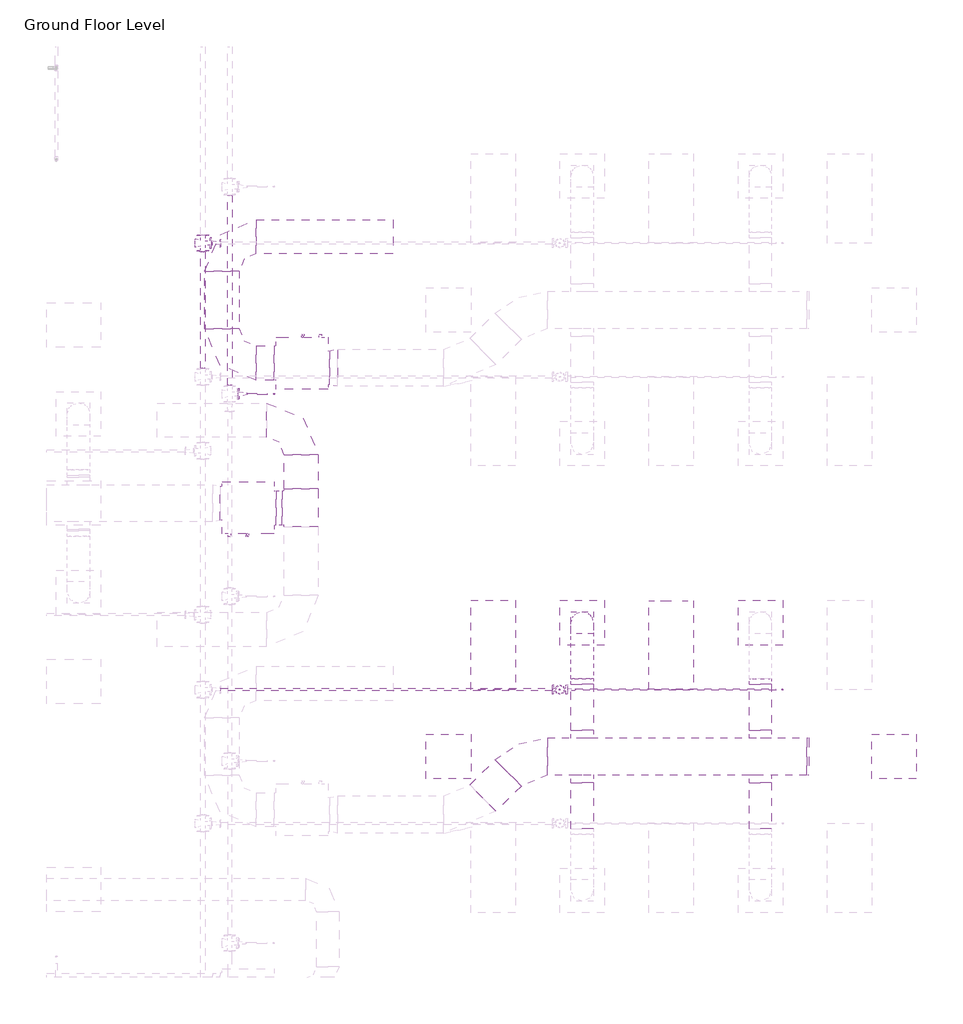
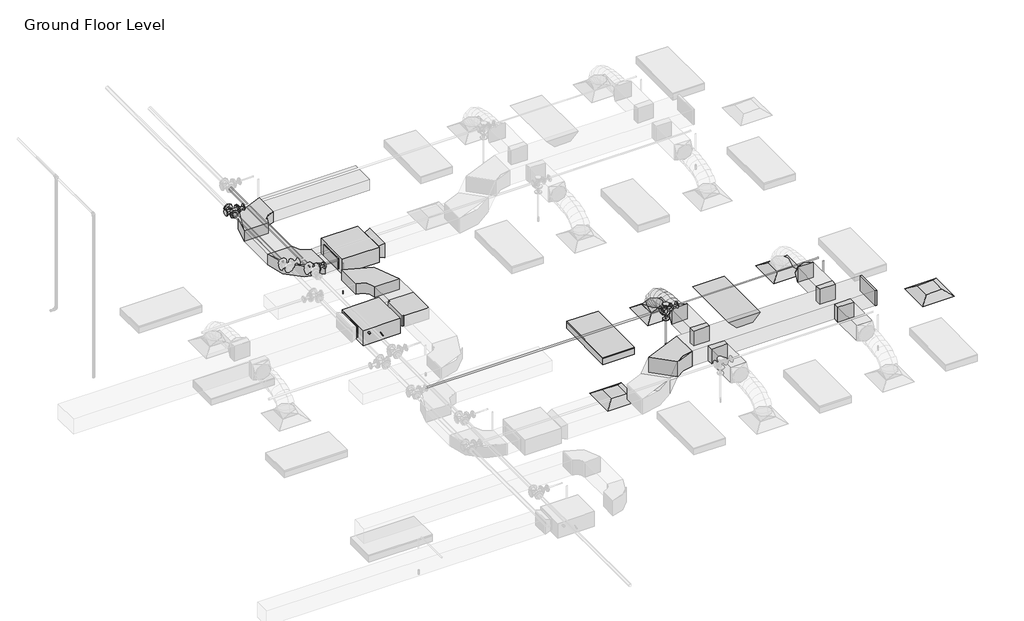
# One storey, part 59 of 68: 14 duct fittings, 12 duct segments, 8 pipe segments, 6 pipe fittings, 4 air terminals, 3 fire suppression terminals, 2 light fixtures, 2 proxies.
"""IFC4 building model written with IfcOpenShell, lengths in millimetres."""

from ifc_helpers import new_model, si_unit, point, frame, frame_2d, origin, place, context, project, spatial, polyline, circle_curve, ellipse_curve, trimmed, segment, composite_curve, outline, extrude, transform, mapped, element, save
from ifc_brep_helpers import plane_surface, cylinder_surface, advanced_brep
from components import m_return_diffuser_600_x_600_face_300_x_300_connection_ff221211, fcu_daikin_iu_bad131e0, m_rectangular_elbow_radius_1_w_54c96895, m_rectangular_elbow_radius_1_5_w_acc56c25, m_rectangular_endcap_standard_72d4d00d, m_rectangular_takeoff_standard_cb0ccb98, m_rectangular_takeoff_standard_2be5eba1, m_rectangular_tee_standard_fa4de0e8, m_rectangular_transition_angle_45_degree_2b595dfe, m_rectangular_to_round_transition_angle_45_degree_641efff0, m_sprinkler_dry_pendent_hosted_15_mm_dry_pendent_9bda8e11, m_sprinkler_pendent_15_mm_pendent_06fcbd8e, m_emergency_recessed_lighting_fixture_600x1200_277_5b10b25d, m_troffer_light_parabolic_rectangular1_0600x1200mm_4_lamp_86473d4a, m_reducer_flanged_cs_class_150_standard_ccf252ad, m_reducer_flanged_cs_class_150_standard_9dfe9ec5, m_reducer_flanged_cs_class_150_standard_a7631c35, m_tee_round_base_flanged_cs_class_150_standard_dd767e04, m_tee_round_base_flanged_cs_class_150_standard_7e5987a1

model = new_model("IFC4")

# Units and contexts
model_context = context("Model", 3, world=origin())
ifc_project = project(units=[si_unit("LENGTHUNIT", "METRE", prefix="MILLI")], contexts=[model_context])

# Site, building, storey
site = spatial("IfcSite", under=ifc_project)
building = spatial("IfcBuilding", under=site)
storey = spatial("IfcBuildingStorey", under=building, Name="Ground Floor Level", Elevation=900.0)

# Air terminals
placement = place(None, origin())
m_return_diffuser_600_x_600_face_300_x_300_connection_shape = m_return_diffuser_600_x_600_face_300_x_300_connection_ff221211(model_context)
element("IfcAirTerminal", 1, ObjectType="M_Return Diffuser : 600 x 600 Face 300 x 300 Connection", at=placement, inside=storey, context=model_context, shape_type="MappedRepresentation", body=[
    mapped(m_return_diffuser_600_x_600_face_300_x_300_connection_shape, transform((8942.7672395, 725.2153534, 3650.0), x_axis=(1.0, 0.0, 0.0), y_axis=(0.0, 1.0, 0.0), z_axis=(0.0, 0.0, 1.0))),
])
element("IfcAirTerminal", 2, ObjectType="M_Return Diffuser : 600 x 600 Face 300 x 300 Connection", at=placement, inside=storey, context=model_context, shape_type="MappedRepresentation", body=[
    mapped(m_return_diffuser_600_x_600_face_300_x_300_connection_shape, transform((14942.7672395, 725.2153534, 3650.0), x_axis=(1.0, 0.0, 0.0), y_axis=(0.0, 1.0, 0.0), z_axis=(0.0, 0.0, 1.0))),
])
element("IfcAirTerminal", 3, ObjectType="M_Supply Diffuser : 600 x 600 Face 300 x 300 Connection", at=placement, inside=storey, context=model_context, shape_type="MappedRepresentation", body=[
    mapped(m_return_diffuser_600_x_600_face_300_x_300_connection_shape, transform((10742.7672395, 2525.2153534, 3650.0), x_axis=(1.0, 0.0, 0.0), y_axis=(0.0, 1.0, 0.0), z_axis=(0.0, 0.0, 1.0))),
])
element("IfcAirTerminal", 4, ObjectType="M_Supply Diffuser : 600 x 600 Face 300 x 300 Connection", at=placement, inside=storey, context=model_context, shape_type="MappedRepresentation", body=[
    mapped(m_return_diffuser_600_x_600_face_300_x_300_connection_shape, transform((13142.7672395, 2525.2153534, 3650.0), x_axis=(1.0, 0.0, 0.0), y_axis=(0.0, 1.0, 0.0), z_axis=(0.0, 0.0, 1.0))),
])

# Proxies
fcu_daikin_iu_shape = fcu_daikin_iu_bad131e0(model_context)
element("IfcBuildingElementProxy", 5, Name="FCU-DAIKIN IU : 4.5kW, 230V/50Hz/1Ph", ObjectType="FCU-DAIKIN IU : 4.5kW, 230V/50Hz/1Ph", at=placement, inside=storey, context=model_context, shape_type="MappedRepresentation", body=[
    mapped(fcu_daikin_iu_shape, transform((6968.8139492, 6019.6779527, 3934.0932729), x_axis=(0.0, 1.0, 0.0), y_axis=(-1.0, 0.0, 0.0), z_axis=(0.0, 0.0, 1.0))),
])
element("IfcBuildingElementProxy", 6, Name="FCU-DAIKIN IU : 4.5kW, 230V/50Hz/1Ph", ObjectType="FCU-DAIKIN IU : 4.5kW, 230V/50Hz/1Ph", at=placement, inside=storey, context=model_context, shape_type="MappedRepresentation", body=[
    mapped(fcu_daikin_iu_shape, transform((6243.4139492, 4071.5199167, 3934.0875), x_axis=(0.0, -1.0, 0.0), y_axis=(1.0, 0.0, 0.0), z_axis=(0.0, 0.0, 1.0))),
])

# Duct fittings
m_rectangular_elbow_radius_1_w_shape = m_rectangular_elbow_radius_1_w_54c96895(model_context)
element("IfcDuctFitting", 7, ObjectType="M_Rectangular Elbow - Radius : 1 W", at=placement, inside=storey, context=model_context, shape_type="MappedRepresentation", body=[
    mapped(m_rectangular_elbow_radius_1_w_shape, transform((5893.4139492, 6019.6779527, 4075.2932729), x_axis=(0.0, -1.0, 0.0), y_axis=(1.0, 0.0, 0.0), z_axis=(0.0, 0.0, 1.0))),
])
element("IfcDuctFitting", 8, ObjectType="M_Rectangular Elbow - Radius : 1 W", at=placement, inside=storey, context=model_context, shape_type="MappedRepresentation", body=[
    mapped(m_rectangular_elbow_radius_1_w_shape, transform((5893.4139492, 7719.6783949, 4075.2932729), x_axis=(-1.0, 0.0, 0.0), y_axis=(0.0, -1.0, 0.0), z_axis=(0.0, 0.0, 1.0))),
])
element("IfcDuctFitting", 9, ObjectType="M_Rectangular Elbow - Radius : 1 W", at=placement, inside=storey, context=model_context, shape_type="MappedRepresentation", body=[
    mapped(m_rectangular_elbow_radius_1_w_shape, transform((6958.8139492, 5251.5199167, 4075.2875), x_axis=(0.0, 1.0, 0.0), y_axis=(-1.0, 0.0, 0.0), z_axis=(0.0, 0.0, 1.0))),
])
m_rectangular_elbow_radius_1_5_w_shape = m_rectangular_elbow_radius_1_5_w_acc56c25(model_context)
element("IfcDuctFitting", 10, ObjectType="M_Rectangular Elbow - Radius : 1.5 W", at=placement, inside=storey, context=model_context, shape_type="MappedRepresentation", body=[
    mapped(m_rectangular_elbow_radius_1_5_w_shape, transform((9966.7301365, 725.2153534, 4100.0), x_axis=(-1.0, 0.0, 0.0), y_axis=(0.0, -0.9999999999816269, 6.061864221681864e-06), z_axis=(0.0, 6.061864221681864e-06, 0.9999999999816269))),
])
m_rectangular_endcap_standard_shape = m_rectangular_endcap_standard_72d4d00d(model_context)
element("IfcDuctFitting", 11, ObjectType="M_Rectangular Endcap : Standard", at=placement, inside=storey, context=model_context, shape_type="MappedRepresentation", body=[
    mapped(m_rectangular_endcap_standard_shape, transform((13766.7301365, 725.2153534, 4100.0), x_axis=(1.0, 0.0, 0.0), y_axis=(0.0, 1.0, 0.0), z_axis=(0.0, 0.0, 1.0))),
])
m_rectangular_takeoff_standard_shape = m_rectangular_takeoff_standard_cb0ccb98(model_context)
element("IfcDuctFitting", 12, ObjectType="M_Rectangular Takeoff : Standard", at=placement, inside=storey, context=model_context, shape_type="MappedRepresentation", body=[
    mapped(m_rectangular_takeoff_standard_shape, transform((10742.7672395, 975.2153534, 4100.0), x_axis=(0.0, 1.0, 0.0), y_axis=(1.0, 0.0, 0.0), z_axis=(0.0, 0.0, -1.0))),
])
element("IfcDuctFitting", 13, ObjectType="M_Rectangular Takeoff : Standard", at=placement, inside=storey, context=model_context, shape_type="MappedRepresentation", body=[
    mapped(m_rectangular_takeoff_standard_shape, transform((13142.7672395, 975.2153534, 4100.0), x_axis=(0.0, 1.0, 0.0), y_axis=(1.0, 0.0, 0.0), z_axis=(0.0, 0.0, -1.0))),
])
m_rectangular_takeoff_standard_2_shape = m_rectangular_takeoff_standard_2be5eba1(model_context)
element("IfcDuctFitting", 14, ObjectType="M_Rectangular Takeoff : Standard", at=placement, inside=storey, context=model_context, shape_type="MappedRepresentation", body=[
    mapped(m_rectangular_takeoff_standard_2_shape, transform((10742.7672395, 475.2153534, 4100.0), x_axis=(0.0, -1.0, 0.0), y_axis=(-1.0, 0.0, 0.0), z_axis=(0.0, 0.0, -1.0))),
])
element("IfcDuctFitting", 15, ObjectType="M_Rectangular Takeoff : Standard", at=placement, inside=storey, context=model_context, shape_type="MappedRepresentation", body=[
    mapped(m_rectangular_takeoff_standard_2_shape, transform((13142.7672395, 475.2153534, 4100.0), x_axis=(0.0, -1.0, 0.0), y_axis=(-1.0, 0.0, 0.0), z_axis=(0.0, 0.0, -1.0))),
])
m_rectangular_tee_standard_shape = m_rectangular_tee_standard_fa4de0e8(model_context)
element("IfcDuctFitting", 16, ObjectType="M_Rectangular Tee : Standard", at=placement, inside=storey, context=model_context, shape_type="MappedRepresentation", body=[
    mapped(m_rectangular_tee_standard_shape, transform((6958.8139492, 4071.5199167, 4075.2875), x_axis=(0.0, -1.0, 0.0), y_axis=(1.0, 0.0, 0.0), z_axis=(0.0, 0.0, 1.0))),
])
m_rectangular_transition_angle_45_degree_shape = m_rectangular_transition_angle_45_degree_2b595dfe(model_context)
element("IfcDuctFitting", 17, ObjectType="M_Rectangular Transition - Angle : 45 Degree", at=placement, inside=storey, context=model_context, shape_type="MappedRepresentation", body=[
    mapped(m_rectangular_transition_angle_45_degree_shape, transform((7344.2139492, 5956.1779527, 4100.0057729), x_axis=(1.0, 0.0, 0.0), y_axis=(0.0, 1.0, 0.0), z_axis=(0.0, 0.0, 1.0))),
])
m_rectangular_to_round_transition_angle_45_degree_shape = m_rectangular_to_round_transition_angle_45_degree_641efff0(model_context)
element("IfcDuctFitting", 18, ObjectType="M_Rectangular to Round Transition - Angle : 45 Degree", at=placement, inside=storey, context=model_context, shape_type="MappedRepresentation", body=[
    mapped(m_rectangular_to_round_transition_angle_45_degree_shape, transform((10742.7672395, 2525.2153534, 3751.6), x_axis=(0.0, 0.0, 1.0), y_axis=(-1.0, 0.0, 0.0), z_axis=(0.0, -1.0, 0.0))),
])
element("IfcDuctFitting", 19, ObjectType="M_Rectangular to Round Transition - Angle : 45 Degree", at=placement, inside=storey, context=model_context, shape_type="MappedRepresentation", body=[
    mapped(m_rectangular_to_round_transition_angle_45_degree_shape, transform((10742.7672395, 1697.8794221, 4100.0), x_axis=(0.0, 1.0, 0.0), y_axis=(-1.0, 0.0, 0.0), z_axis=(0.0, 0.0, 1.0))),
])
element("IfcDuctFitting", 20, ObjectType="M_Rectangular to Round Transition - Angle : 45 Degree", at=placement, inside=storey, context=model_context, shape_type="MappedRepresentation", body=[
    mapped(m_rectangular_to_round_transition_angle_45_degree_shape, transform((13142.7672395, 1697.8794221, 4100.0), x_axis=(0.0, 1.0, 0.0), y_axis=(-1.0, 0.0, 0.0), z_axis=(0.0, 0.0, 1.0))),
])

# Duct segments
element("IfcDuctSegment", 21, ObjectType="Flex - Round", at=placement, inside=storey, context=model_context, shape_type="AdvancedBrep", body=[
    advanced_brep(
    [(10892.7672395, 2525.2153534, 3826.6), (10742.7672395, 2375.2153534, 3826.6), (10592.7672395, 2525.2153534, 3826.6), (10742.7672395, 2675.2153534, 3826.6), (10892.7672395, 2525.2153534, 3857.9377114), (10742.7672395, 2375.2153534, 3832.2944892), (10592.7672395, 2525.2153534, 3857.9377114), (10742.7672395, 2675.2153534, 3883.5809337), (10892.7672395, 2508.1994208, 3906.2505728), (10742.7672395, 2374.4614419, 3834.435049), (10592.7672395, 2508.1994208, 3906.2505728), (10742.7672395, 2641.9373998, 3978.0660967), (10892.7672395, 2461.0155405, 3968.7113131), (10742.7672395, 2356.8096412, 3857.8020236), (10592.7672395, 2461.0155405, 3968.7113131), (10742.7672395, 2565.2214397, 4079.6206026), (10892.7672395, 2389.4595883, 4016.0700639), (10742.7672395, 2320.5255327, 3881.8163788), (10592.7672395, 2389.4595883, 4016.0700639), (10742.7672395, 2458.3936439, 4150.3237489), (10892.7672395, 2299.3274403, 4050.4146682), (10742.7672395, 2255.7666771, 3906.4925606), (10592.7672395, 2299.3274403, 4050.4146682), (10742.7672395, 2342.8882035, 4194.3367758), (10892.7672395, 2196.4149725, 4073.8329691), (10742.7672395, 2169.8540485, 3926.0424542), (10592.7672395, 2196.4149725, 4073.8329691), (10742.7672395, 2222.9758965, 4221.6234841), (10892.7672395, 2086.5180607, 4088.4128097), (10742.7672395, 2071.3671584, 3939.1085462), (10592.7672395, 2086.5180607, 4088.4128097), (10742.7672395, 2101.6689631, 4237.7170733), (10892.7672395, 1975.4325811, 4096.242033), (10742.7672395, 1967.9272529, 3946.398915), (10592.7672395, 1975.4325811, 4096.242033), (10742.7672395, 1982.9379093, 4246.085151), (10892.7672395, 1868.9544096, 4099.4084821), (10742.7672395, 1866.2629165, 3949.4222102), (10592.7672395, 1868.9544096, 4099.4084821), (10742.7672395, 1871.6459027, 4249.394754), (10892.7672395, 1772.8794221, 4100.0), (10742.7672395, 1773.8029299, 4249.9971571), (10592.7672395, 1772.8794221, 4100.0), (10742.7672395, 1771.9559143, 3950.0028429)],
    [
        (0, 1, circle_curve(frame((10742.7672395, 2525.2153534, 3826.6), z_axis=(0.0, 0.0, -1.0), x_axis=(1.0, 0.0, 0.0)), 150.0)),
        (1, 2, circle_curve(frame((10742.7672395, 2525.2153534, 3826.6), z_axis=(0.0, 0.0, -1.0), x_axis=(1.0, 0.0, 0.0)), 150.0)),
        (2, 3, circle_curve(frame((10742.7672395, 2525.2153534, 3826.6), z_axis=(0.0, 0.0, -1.0), x_axis=(1.0, 0.0, 0.0)), 150.0)),
        (3, 0, circle_curve(frame((10742.7672395, 2525.2153534, 3826.6), z_axis=(0.0, 0.0, -1.0), x_axis=(1.0, 0.0, 0.0)), 150.0)),
        (0, 4),
        (4, 5, ellipse_curve(frame((10742.7672395, 2525.2153534, 3857.9377114), z_axis=(0.0, 0.16851014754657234, -0.9856999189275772), x_axis=(0.0, -0.9856999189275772, -0.1685101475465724)), 152.176131, 150.0)),
        (5, 1),
        (5, 6, ellipse_curve(frame((10742.7672395, 2525.2153534, 3857.9377114), z_axis=(0.0, 0.16851014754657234, -0.9856999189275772), x_axis=(0.0, -0.9856999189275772, -0.1685101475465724)), 152.176131, 150.0)),
        (6, 2),
        (6, 7, ellipse_curve(frame((10742.7672395, 2525.2153534, 3857.9377114), z_axis=(0.0, 0.16851014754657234, -0.9856999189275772), x_axis=(0.0, -0.9856999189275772, -0.1685101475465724)), 152.176131, 150.0)),
        (7, 3),
        (7, 4, ellipse_curve(frame((10742.7672395, 2525.2153534, 3857.9377114), z_axis=(0.0, 0.16851014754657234, -0.9856999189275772), x_axis=(0.0, -0.9856999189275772, -0.1685101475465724)), 152.176131, 150.0)),
        (4, 8),
        (8, 9, ellipse_curve(frame((10742.7672395, 2508.1994208, 3906.2505728), z_axis=(0.0, 0.47309225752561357, -0.8810128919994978), x_axis=(0.0, -0.8810128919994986, -0.47309225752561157)), 151.8002519, 150.0)),
        (9, 5),
        (9, 10, ellipse_curve(frame((10742.7672395, 2508.1994208, 3906.2505728), z_axis=(0.0, 0.47309225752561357, -0.8810128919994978), x_axis=(0.0, -0.8810128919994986, -0.47309225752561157)), 151.8002519, 150.0)),
        (10, 6),
        (10, 11, ellipse_curve(frame((10742.7672395, 2508.1994208, 3906.2505728), z_axis=(0.0, 0.47309225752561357, -0.8810128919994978), x_axis=(0.0, -0.8810128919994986, -0.47309225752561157)), 151.8002519, 150.0)),
        (11, 7),
        (11, 8, ellipse_curve(frame((10742.7672395, 2508.1994208, 3906.2505728), z_axis=(0.0, 0.47309225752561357, -0.8810128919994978), x_axis=(0.0, -0.8810128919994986, -0.47309225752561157)), 151.8002519, 150.0)),
        (8, 12),
        (12, 13, ellipse_curve(frame((10742.7672395, 2461.0155405, 3968.7113131), z_axis=(0.0, 0.7287877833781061, -0.6847396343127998), x_axis=(0.0, -0.6847396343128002, -0.7287877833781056)), 152.1832446, 150.0)),
        (13, 9),
        (13, 14, ellipse_curve(frame((10742.7672395, 2461.0155405, 3968.7113131), z_axis=(0.0, 0.7287877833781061, -0.6847396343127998), x_axis=(0.0, -0.6847396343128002, -0.7287877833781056)), 152.1832446, 150.0)),
        (14, 10),
        (14, 15, ellipse_curve(frame((10742.7672395, 2461.0155405, 3968.7113131), z_axis=(0.0, 0.7287877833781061, -0.6847396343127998), x_axis=(0.0, -0.6847396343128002, -0.7287877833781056)), 152.1832446, 150.0)),
        (15, 11),
        (15, 12, ellipse_curve(frame((10742.7672395, 2461.0155405, 3968.7113131), z_axis=(0.0, 0.7287877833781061, -0.6847396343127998), x_axis=(0.0, -0.6847396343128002, -0.7287877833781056)), 152.1832446, 150.0)),
        (12, 16),
        (16, 17, ellipse_curve(frame((10742.7672395, 2389.4595883, 4016.0700639), z_axis=(0.0, 0.8895859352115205, -0.45676784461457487), x_axis=(0.0, -0.4567678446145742, -0.8895859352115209)), 150.91705, 150.0)),
        (17, 13),
        (17, 18, ellipse_curve(frame((10742.7672395, 2389.4595883, 4016.0700639), z_axis=(0.0, 0.8895859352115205, -0.45676784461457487), x_axis=(0.0, -0.4567678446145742, -0.8895859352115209)), 150.91705, 150.0)),
        (18, 14),
        (18, 19, ellipse_curve(frame((10742.7672395, 2389.4595883, 4016.0700639), z_axis=(0.0, 0.8895859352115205, -0.45676784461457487), x_axis=(0.0, -0.4567678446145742, -0.8895859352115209)), 150.91705, 150.0)),
        (19, 15),
        (19, 16, ellipse_curve(frame((10742.7672395, 2389.4595883, 4016.0700639), z_axis=(0.0, 0.8895859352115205, -0.45676784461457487), x_axis=(0.0, -0.4567678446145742, -0.8895859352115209)), 150.91705, 150.0)),
        (16, 20),
        (20, 21, ellipse_curve(frame((10742.7672395, 2299.3274403, 4050.4146682), z_axis=(0.0, 0.9571203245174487, -0.2896906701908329), x_axis=(0.0, -0.28969067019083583, -0.9571203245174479)), 150.369921, 150.0)),
        (21, 17),
        (21, 22, ellipse_curve(frame((10742.7672395, 2299.3274403, 4050.4146682), z_axis=(0.0, 0.9571203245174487, -0.2896906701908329), x_axis=(0.0, -0.28969067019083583, -0.9571203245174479)), 150.369921, 150.0)),
        (22, 18),
        (22, 23, ellipse_curve(frame((10742.7672395, 2299.3274403, 4050.4146682), z_axis=(0.0, 0.9571203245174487, -0.2896906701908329), x_axis=(0.0, -0.28969067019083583, -0.9571203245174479)), 150.369921, 150.0)),
        (23, 19),
        (23, 20, ellipse_curve(frame((10742.7672395, 2299.3274403, 4050.4146682), z_axis=(0.0, 0.9571203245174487, -0.2896906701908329), x_axis=(0.0, -0.28969067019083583, -0.9571203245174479)), 150.369921, 150.0)),
        (20, 24),
        (24, 25, ellipse_curve(frame((10742.7672395, 2196.4149725, 4073.8329691), z_axis=(0.0, 0.9842313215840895, -0.1768861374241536), x_axis=(0.0, -0.1768861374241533, -0.9842313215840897)), 150.1583131, 150.0)),
        (25, 21),
        (25, 26, ellipse_curve(frame((10742.7672395, 2196.4149725, 4073.8329691), z_axis=(0.0, 0.9842313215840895, -0.1768861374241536), x_axis=(0.0, -0.1768861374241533, -0.9842313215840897)), 150.1583131, 150.0)),
        (26, 22),
        (26, 27, ellipse_curve(frame((10742.7672395, 2196.4149725, 4073.8329691), z_axis=(0.0, 0.9842313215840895, -0.1768861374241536), x_axis=(0.0, -0.1768861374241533, -0.9842313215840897)), 150.1583131, 150.0)),
        (27, 23),
        (27, 24, ellipse_curve(frame((10742.7672395, 2196.4149725, 4073.8329691), z_axis=(0.0, 0.9842313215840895, -0.1768861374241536), x_axis=(0.0, -0.1768861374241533, -0.9842313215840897)), 150.1583131, 150.0)),
        (24, 28),
        (28, 29, ellipse_curve(frame((10742.7672395, 2086.5180607, 4088.4128097), z_axis=(0.0, 0.9948906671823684, -0.10095821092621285), x_axis=(0.0, -0.10095821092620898, -0.9948906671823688)), 150.0710264, 150.0)),
        (29, 25),
        (29, 30, ellipse_curve(frame((10742.7672395, 2086.5180607, 4088.4128097), z_axis=(0.0, 0.9948906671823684, -0.10095821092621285), x_axis=(0.0, -0.10095821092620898, -0.9948906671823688)), 150.0710264, 150.0)),
        (30, 26),
        (30, 31, ellipse_curve(frame((10742.7672395, 2086.5180607, 4088.4128097), z_axis=(0.0, 0.9948906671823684, -0.10095821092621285), x_axis=(0.0, -0.10095821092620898, -0.9948906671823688)), 150.0710264, 150.0)),
        (31, 27),
        (31, 28, ellipse_curve(frame((10742.7672395, 2086.5180607, 4088.4128097), z_axis=(0.0, 0.9948906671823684, -0.10095821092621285), x_axis=(0.0, -0.10095821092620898, -0.9948906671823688)), 150.0710264, 150.0)),
        (28, 32),
        (32, 33, ellipse_curve(frame((10742.7672395, 1975.4325811, 4096.242033), z_axis=(0.0, 0.9987479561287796, -0.050025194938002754), x_axis=(0.0, -0.05002519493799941, -0.99874795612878)), 150.0309634, 150.0)),
        (33, 29),
        (33, 34, ellipse_curve(frame((10742.7672395, 1975.4325811, 4096.242033), z_axis=(0.0, 0.9987479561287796, -0.050025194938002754), x_axis=(0.0, -0.05002519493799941, -0.99874795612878)), 150.0309634, 150.0)),
        (34, 30),
        (34, 35, ellipse_curve(frame((10742.7672395, 1975.4325811, 4096.242033), z_axis=(0.0, 0.9987479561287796, -0.050025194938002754), x_axis=(0.0, -0.05002519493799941, -0.99874795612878)), 150.0309634, 150.0)),
        (35, 31),
        (35, 32, ellipse_curve(frame((10742.7672395, 1975.4325811, 4096.242033), z_axis=(0.0, 0.9987479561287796, -0.050025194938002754), x_axis=(0.0, -0.05002519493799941, -0.99874795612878)), 150.0309634, 150.0)),
        (32, 36),
        (36, 37, ellipse_curve(frame((10742.7672395, 1868.9544096, 4099.4084821), z_axis=(0.0, 0.9998390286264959, -0.01794204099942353), x_axis=(0.0, -0.017942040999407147, -0.9998390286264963)), 150.0104193, 150.0)),
        (37, 33),
        (37, 38, ellipse_curve(frame((10742.7672395, 1868.9544096, 4099.4084821), z_axis=(0.0, 0.9998390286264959, -0.01794204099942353), x_axis=(0.0, -0.017942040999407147, -0.9998390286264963)), 150.0104193, 150.0)),
        (38, 34),
        (38, 39, ellipse_curve(frame((10742.7672395, 1868.9544096, 4099.4084821), z_axis=(0.0, 0.9998390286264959, -0.01794204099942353), x_axis=(0.0, -0.017942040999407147, -0.9998390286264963)), 150.0104193, 150.0)),
        (39, 35),
        (39, 36, ellipse_curve(frame((10742.7672395, 1868.9544096, 4099.4084821), z_axis=(0.0, 0.9998390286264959, -0.01794204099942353), x_axis=(0.0, -0.017942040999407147, -0.9998390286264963)), 150.0104193, 150.0)),
        (40, 41, circle_curve(frame((10742.7672395, 1772.8794221, 4100.0), z_axis=(0.0, -0.9999810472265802, 0.006156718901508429), x_axis=(1.0, 0.0, 0.0)), 150.0)),
        (41, 42, circle_curve(frame((10742.7672395, 1772.8794221, 4100.0), z_axis=(0.0, -0.9999810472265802, 0.006156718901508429), x_axis=(1.0, 0.0, 0.0)), 150.0)),
        (42, 43, circle_curve(frame((10742.7672395, 1772.8794221, 4100.0), z_axis=(0.0, -0.9999810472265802, 0.006156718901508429), x_axis=(1.0, 0.0, 0.0)), 150.0)),
        (43, 40, circle_curve(frame((10742.7672395, 1772.8794221, 4100.0), z_axis=(0.0, -0.9999810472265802, 0.006156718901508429), x_axis=(1.0, 0.0, 0.0)), 150.0)),
        (36, 40),
        (43, 37),
        (42, 38),
        (41, 39),
    ],
    [
        plane_surface(frame((10742.7672395, 2375.2153534, 3826.6), z_axis=(0.0, 0.0, -1.0), x_axis=(1.0, 0.0, 0.0))),
        cylinder_surface(frame((10742.7672395, 2525.2153534, 3826.6), z_axis=(0.0, 0.0, -1.0), x_axis=(1.0, 0.0, 0.0)), 150.0),
        cylinder_surface(frame((10742.7672395, 2525.2153534, 3857.9377114), z_axis=(0.0, 0.3322008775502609, -0.9432086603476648), x_axis=(1.0, 0.0, 0.0)), 150.0),
        cylinder_surface(frame((10742.7672395, 2508.1994208, 3906.2505728), z_axis=(0.0, 0.6027625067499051, -0.7979206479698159), x_axis=(1.0, 0.0, 0.0)), 150.0),
        cylinder_surface(frame((10742.7672395, 2461.0155405, 3968.7113131), z_axis=(0.0, 0.8339024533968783, -0.5519118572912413), x_axis=(1.0, 0.0, 0.0)), 150.0),
        cylinder_surface(frame((10742.7672395, 2389.4595883, 4016.0700639), z_axis=(0.0, 0.9344582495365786, -0.35607271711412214), x_axis=(1.0, 0.0, 0.0)), 150.0),
        cylinder_surface(frame((10742.7672395, 2299.3274403, 4050.4146682), z_axis=(0.0, 0.9750732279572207, -0.22188330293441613), x_axis=(1.0, 0.0, 0.0)), 150.0),
        cylinder_surface(frame((10742.7672395, 2196.4149725, 4073.8329691), z_axis=(0.0, 0.9913140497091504, -0.13151598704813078), x_axis=(1.0, 0.0, 0.0)), 150.0),
        cylinder_surface(frame((10742.7672395, 2086.5180607, 4088.4128097), z_axis=(0.0, 0.9975255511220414, -0.07030487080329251), x_axis=(1.0, 0.0, 0.0)), 150.0),
        cylinder_surface(frame((10742.7672395, 1975.4325811, 4096.242033), z_axis=(0.0, 0.9995581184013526, -0.029724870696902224), x_axis=(1.0, 0.0, 0.0)), 150.0),
        plane_surface(frame((10742.7672395, 1771.9559143, 3950.0028429), z_axis=(0.0, -0.9999810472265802, 0.006156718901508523), x_axis=(1.0, 0.0, 0.0))),
        cylinder_surface(frame((10742.7672395, 1868.9544096, 4099.4084821), z_axis=(0.0, 0.9999810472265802, -0.006156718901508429), x_axis=(1.0, 0.0, 0.0)), 150.0),
    ],
    [
        (0, [[1, 2, 3, 4]]),
        (1, [[-1, 5, 6, 7]]),
        (1, [[-2, -7, 8, 9]]),
        (1, [[-3, -9, 10, 11]]),
        (1, [[-4, -11, 12, -5]]),
        (2, [[-6, 13, 14, 15]]),
        (2, [[-8, -15, 16, 17]]),
        (2, [[-10, -17, 18, 19]]),
        (2, [[-12, -19, 20, -13]]),
        (3, [[-14, 21, 22, 23]]),
        (3, [[-16, -23, 24, 25]]),
        (3, [[-18, -25, 26, 27]]),
        (3, [[-20, -27, 28, -21]]),
        (4, [[-22, 29, 30, 31]]),
        (4, [[-24, -31, 32, 33]]),
        (4, [[-26, -33, 34, 35]]),
        (4, [[-28, -35, 36, -29]]),
        (5, [[-30, 37, 38, 39]]),
        (5, [[-32, -39, 40, 41]]),
        (5, [[-34, -41, 42, 43]]),
        (5, [[-36, -43, 44, -37]]),
        (6, [[-38, 45, 46, 47]]),
        (6, [[-40, -47, 48, 49]]),
        (6, [[-42, -49, 50, 51]]),
        (6, [[-44, -51, 52, -45]]),
        (7, [[-46, 53, 54, 55]]),
        (7, [[-48, -55, 56, 57]]),
        (7, [[-50, -57, 58, 59]]),
        (7, [[-52, -59, 60, -53]]),
        (8, [[-54, 61, 62, 63]]),
        (8, [[-56, -63, 64, 65]]),
        (8, [[-58, -65, 66, 67]]),
        (8, [[-60, -67, 68, -61]]),
        (9, [[-62, 69, 70, 71]]),
        (9, [[-64, -71, 72, 73]]),
        (9, [[-66, -73, 74, 75]]),
        (9, [[-68, -75, 76, -69]]),
        (10, [[77, 78, 79, 80]]),
        (11, [[-70, 81, -80, 82]]),
        (11, [[-72, -82, -79, 83]]),
        (11, [[-74, -83, -78, 84]]),
        (11, [[-76, -84, -77, -81]]),
    ],
),
])
element("IfcDuctSegment", 22, ObjectType="Radius Elbows / Taps", at=placement, inside=storey, context=model_context, shape_type="SweptSolid", body=[
    extrude(outline(polyline([(6593.4139492, 6250.6154527), (6593.4139492, 5788.7404527), (6355.2889492, 5788.7404527), (6355.2889492, 6250.6154527), (6593.4139492, 6250.6154527)])), frame((0.0, 0.0, 3968.1432729), z_axis=(0.0, 0.0, 1.0), x_axis=(1.0, 0.0, 0.0)), (0.0, 0.0, 1.0), 214.3),
])
element("IfcDuctSegment", 23, ObjectType="Radius Elbows / Taps", at=placement, inside=storey, context=model_context, shape_type="SweptSolid", body=[
    extrude(outline(polyline([(6124.3514492, 6481.5529527), (5662.4764492, 6481.5529527), (5662.4764492, 7257.8033949), (6124.3514492, 7257.8033949), (6124.3514492, 6481.5529527)])), frame((0.0, 0.0, 3968.1432729), z_axis=(0.0, 0.0, 1.0), x_axis=(1.0, 0.0, 0.0)), (0.0, 0.0, 1.0), 214.3),
])
element("IfcDuctSegment", 24, ObjectType="Radius Elbows / Taps", at=placement, inside=storey, context=model_context, shape_type="SweptSolid", body=[
    extrude(outline(polyline([(6355.2889492, 7488.7408949), (6355.2889492, 7950.6158949), (8193.4139492, 7950.6158949), (8193.4139492, 7488.7408949), (6355.2889492, 7488.7408949)])), frame((0.0, 0.0, 3968.1432729), z_axis=(0.0, 0.0, 1.0), x_axis=(1.0, 0.0, 0.0)), (0.0, 0.0, 1.0), 214.3),
])
element("IfcDuctSegment", 25, ObjectType="Radius Elbows / Taps", at=placement, inside=storey, context=model_context, shape_type="SweptSolid", body=[
    extrude(outline(polyline([(9584.1393452, -10.9288285), (9230.5859546, 342.6245621), (9570.2835271, 682.3221346), (9923.8369177, 328.768744), (9584.1393452, -10.9288285)])), frame((0.0, 0.0, 3950.0033908), z_axis=(0.0, 0.0, 1.0), x_axis=(1.0, 0.0, 0.0)), (0.0, 0.0, 1.0), 300.0),
])
element("IfcDuctSegment", 26, ObjectType="Radius Elbows / Taps", at=placement, inside=storey, context=model_context, shape_type="SweptSolid", body=[
    extrude(outline(polyline([(10277.3903083, 475.2153534), (10277.3903083, 975.2153534), (13766.7301365, 975.2153534), (13766.7301365, 475.2153534), (10277.3903083, 475.2153534)])), frame((0.0, 0.0, 3950.0), z_axis=(0.0, 0.0, 1.0), x_axis=(1.0, 0.0, 0.0)), (0.0, 0.0, 1.0), 300.0),
])
element("IfcDuctSegment", 27, ObjectType="Radius Elbows / Taps", at=placement, inside=storey, context=model_context, shape_type="SweptSolid", body=[
    extrude(outline(polyline([(6618.8139492, 3840.5824167), (6618.8139492, 4302.4574167), (6702.8764492, 4302.4574167), (6702.8764492, 3840.5824167), (6618.8139492, 3840.5824167)])), frame((0.0, 0.0, 3968.1375), z_axis=(0.0, 0.0, 1.0), x_axis=(1.0, 0.0, 0.0)), (0.0, 0.0, 1.0), 214.3),
])
element("IfcDuctSegment", 28, ObjectType="Radius Elbows / Taps", at=placement, inside=storey, context=model_context, shape_type="SweptSolid", body=[
    extrude(outline(polyline([(7189.7514492, 4327.4574167), (6727.8764492, 4327.4574167), (6727.8764492, 4789.6449167), (7189.7514492, 4789.6449167), (7189.7514492, 4327.4574167)])), frame((0.0, 0.0, 3968.1375), z_axis=(0.0, 0.0, 1.0), x_axis=(1.0, 0.0, 0.0)), (0.0, 0.0, 1.0), 214.3),
])
element("IfcDuctSegment", 29, ObjectType="Radius Elbows / Taps", at=placement, inside=storey, context=model_context, shape_type="SweptSolid", body=[
    extrude(outline(polyline([(10892.7672395, 1076.8153534), (10592.7672395, 1076.8153534), (10592.7672395, 1697.8794221), (10892.7672395, 1697.8794221), (10892.7672395, 1076.8153534)])), frame((0.0, 0.0, 3950.0), z_axis=(0.0, 0.0, 1.0), x_axis=(1.0, 0.0, 0.0)), (0.0, 0.0, 1.0), 300.0),
])
element("IfcDuctSegment", 30, ObjectType="Radius Elbows / Taps", at=placement, inside=storey, context=model_context, shape_type="SweptSolid", body=[
    extrude(outline(polyline([(13292.7672395, 1076.8153534), (12992.7672395, 1076.8153534), (12992.7672395, 1697.8794221), (13292.7672395, 1697.8794221), (13292.7672395, 1076.8153534)])), frame((0.0, 0.0, 3950.0), z_axis=(0.0, 0.0, 1.0), x_axis=(1.0, 0.0, 0.0)), (0.0, 0.0, 1.0), 300.0),
])
element("IfcDuctSegment", 31, ObjectType="Radius Elbows / Taps", at=placement, inside=storey, context=model_context, shape_type="SweptSolid", body=[
    extrude(outline(polyline([(10592.7672395, 373.6153534), (10892.7672395, 373.6153534), (10892.7672395, -247.4487153), (10592.7672395, -247.4487153), (10592.7672395, 373.6153534)])), frame((0.0, 0.0, 3950.0), z_axis=(0.0, 0.0, 1.0), x_axis=(1.0, 0.0, 0.0)), (0.0, 0.0, 1.0), 300.0),
])
element("IfcDuctSegment", 32, ObjectType="Radius Elbows / Taps", at=placement, inside=storey, context=model_context, shape_type="SweptSolid", body=[
    extrude(outline(polyline([(12992.7672395, 373.6153534), (13292.7672395, 373.6153534), (13292.7672395, -247.4487153), (12992.7672395, -247.4487153), (12992.7672395, 373.6153534)])), frame((0.0, 0.0, 3950.0), z_axis=(0.0, 0.0, 1.0), x_axis=(1.0, 0.0, 0.0)), (0.0, 0.0, 1.0), 300.0),
])

# Fire suppression terminals
m_sprinkler_dry_pendent_hosted_15_mm_dry_pendent_shape = m_sprinkler_dry_pendent_hosted_15_mm_dry_pendent_9bda8e11(model_context)
element("IfcFireSuppressionTerminal", 33, ObjectType="M_Sprinkler - Dry - Pendent - Hosted : 15 mm Dry Pendent", at=placement, inside=storey, context=model_context, shape_type="MappedRepresentation", body=[
    mapped(m_sprinkler_dry_pendent_hosted_15_mm_dry_pendent_shape, transform((10442.7672395, 1625.2153534, 3650.0), x_axis=(1.0, 0.0, 0.0), y_axis=(0.0, -1.0, 0.0), z_axis=(0.0, 0.0, -1.0))),
])
element("IfcFireSuppressionTerminal", 34, ObjectType="M_Sprinkler - Dry - Pendent - Hosted : 15 mm Dry Pendent", at=placement, inside=storey, context=model_context, shape_type="MappedRepresentation", body=[
    mapped(m_sprinkler_dry_pendent_hosted_15_mm_dry_pendent_shape, transform((13442.7672395, 1625.2153534, 3650.0), x_axis=(1.0, 0.0, 0.0), y_axis=(0.0, -1.0, 0.0), z_axis=(0.0, 0.0, -1.0))),
])
m_sprinkler_pendent_15_mm_pendent_shape = m_sprinkler_pendent_15_mm_pendent_06fcbd8e(model_context)
element("IfcFireSuppressionTerminal", 35, ObjectType="M_Sprinkler - Pendent : 15 mm Pendent", at=placement, inside=storey, context=model_context, shape_type="MappedRepresentation", body=[
    mapped(m_sprinkler_pendent_15_mm_pendent_shape, transform((6592.5481019, 5605.2153637, 3650.0), x_axis=(1.0, 0.0, 0.0), y_axis=(0.0, 1.0, 0.0), z_axis=(0.0, 0.0, 1.0))),
])

# Light fixtures
m_emergency_recessed_lighting_fixture_600x1200_277_shape = m_emergency_recessed_lighting_fixture_600x1200_277_5b10b25d(model_context)
element("IfcLightFixture", 36, ObjectType="M_Emergency Recessed Lighting Fixture : 600x1200 - 277", at=placement, inside=storey, context=model_context, shape_type="MappedRepresentation", body=[
    mapped(m_emergency_recessed_lighting_fixture_600x1200_277_shape, transform((11642.7672395, 1625.2153534, 3650.0), x_axis=(0.0, 1.0, 0.0), y_axis=(-1.0, 0.0, 0.0), z_axis=(0.0, 0.0, 1.0))),
])
m_troffer_light_parabolic_rectangular1_0600x1200mm_4_lamp_shape = m_troffer_light_parabolic_rectangular1_0600x1200mm_4_lamp_86473d4a(model_context)
element("IfcLightFixture", 37, ObjectType="M_Troffer Light - Parabolic Rectangular1 : 0600x1200mm(4 Lamp) - 277V 2", at=placement, inside=storey, context=model_context, shape_type="MappedRepresentation", body=[
    mapped(m_troffer_light_parabolic_rectangular1_0600x1200mm_4_lamp_shape, transform((9483.3013074, 2243.918855, 3650.0), x_axis=(0.0, 1.0, 0.0), y_axis=(-1.0, 0.0, 0.0), z_axis=(0.0, 0.0, 1.0))),
])

# Pipe fittings
m_reducer_flanged_cs_class_150_standard_shape = m_reducer_flanged_cs_class_150_standard_ccf252ad(model_context)
element("IfcPipeFitting", 38, ObjectType="M_Reducer - Flanged - CS - Class 150 : Standard", at=placement, inside=storey, context=model_context, shape_type="MappedRepresentation", body=[
    mapped(m_reducer_flanged_cs_class_150_standard_shape, transform((10543.4758332, 1625.2153534, 4360.0), x_axis=(1.0, 0.0, 0.0), y_axis=(0.0, 0.0, 1.0), z_axis=(0.0, -1.0, 0.0))),
])
element("IfcPipeFitting", 39, ObjectType="M_Reducer - Flanged - CS - Class 150 : Standard", at=placement, inside=storey, context=model_context, shape_type="MappedRepresentation", body=[
    mapped(m_reducer_flanged_cs_class_150_standard_shape, transform((10442.7672395, 1625.2153534, 4259.2914062), x_axis=(0.0, 0.0, -1.0), y_axis=(-1.0, 0.0, 0.0), z_axis=(0.0, 1.0, 0.0))),
])
m_reducer_flanged_cs_class_150_standard_2_shape = m_reducer_flanged_cs_class_150_standard_9dfe9ec5(model_context)
element("IfcPipeFitting", 40, ObjectType="M_Reducer - Flanged - CS - Class 150 : Standard", at=placement, inside=storey, context=model_context, shape_type="MappedRepresentation", body=[
    mapped(m_reducer_flanged_cs_class_150_standard_2_shape, transform((6111.057812, 5605.2153637, 4291.250653), x_axis=(1.0, 0.0, 0.0), y_axis=(0.0, 0.0, -1.0), z_axis=(0.0, 1.0, 0.0))),
])
m_reducer_flanged_cs_class_150_standard_3_shape = m_reducer_flanged_cs_class_150_standard_a7631c35(model_context)
element("IfcPipeFitting", 41, ObjectType="M_Reducer - Flanged - CS - Class 150 : Standard", at=placement, inside=storey, context=model_context, shape_type="MappedRepresentation", body=[
    mapped(m_reducer_flanged_cs_class_150_standard_3_shape, transform((5749.869498, 7635.2153534, 4360.0), x_axis=(1.0, 0.0, 0.0), y_axis=(0.0, 0.0, 1.0), z_axis=(0.0, -1.0, 0.0))),
])
m_tee_round_base_flanged_cs_class_150_standard_shape = m_tee_round_base_flanged_cs_class_150_standard_dd767e04(model_context)
element("IfcPipeFitting", 42, ObjectType="M_Tee Round Base - Flanged - CS - Class 150 : Standard", at=placement, inside=storey, context=model_context, shape_type="MappedRepresentation", body=[
    mapped(m_tee_round_base_flanged_cs_class_150_standard_shape, transform((5635.869498, 7635.2153534, 4360.0), x_axis=(0.0, 1.0, 0.0), y_axis=(-1.0, 0.0, 0.0), z_axis=(0.0, 0.0, 1.0))),
])
m_tee_round_base_flanged_cs_class_150_standard_2_shape = m_tee_round_base_flanged_cs_class_150_standard_7e5987a1(model_context)
element("IfcPipeFitting", 43, ObjectType="M_Tee Round Base - Flanged - CS - Class 150 : Standard", at=placement, inside=storey, context=model_context, shape_type="MappedRepresentation", body=[
    mapped(m_tee_round_base_flanged_cs_class_150_standard_2_shape, transform((10442.7672395, 1625.2153534, 4360.0), x_axis=(1.0, 0.0, 0.0), y_axis=(0.0, 0.0, 1.0), z_axis=(0.0, -1.0, 0.0))),
])

# Pipe segments
element("IfcPipeSegment", 44, ObjectType="Steel flanged", at=placement, inside=storey, context=model_context, shape_type="SweptSolid", body=[
    extrude(outline(composite_curve([segment(trimmed(circle_curve(frame_2d((6592.5481019, 5605.2153637)), 10.668), [point((6581.8801019, 5605.2153637))], [point((6592.5481019, 5615.8833637))], False, "CARTESIAN"), True, "CONTINUOUS"), segment(trimmed(circle_curve(frame_2d((6592.5481019, 5605.2153637)), 10.668), [point((6592.5481019, 5615.8833637))], [point((6603.2161019, 5605.2153637))], False, "CARTESIAN"), True, "CONTINUOUS"), segment(trimmed(circle_curve(frame_2d((6592.5481019, 5605.2153637)), 10.668), [point((6603.2161019, 5605.2153637))], [point((6592.5481019, 5594.5473637))], False, "CARTESIAN"), True, "CONTINUOUS"), segment(trimmed(circle_curve(frame_2d((6592.5481019, 5605.2153637)), 10.668), [point((6592.5481019, 5594.5473637))], [point((6581.8801019, 5605.2153637))], False, "CARTESIAN"), True, "CONTINUOUS")], self_intersect=False)), frame((0.0, 0.0, 3650.0), z_axis=(0.0, 0.0, 1.0), x_axis=(1.0, 0.0, 0.0)), (0.0, 0.0, 1.0), 548.2420592),
])
element("IfcPipeSegment", 45, ObjectType="Steel flanged", at=placement, inside=storey, context=model_context, shape_type="SweptSolid", body=[
    extrude(outline(composite_curve([segment(trimmed(circle_curve(frame_2d((5605.2153637, 4291.250653)), 10.668), [point((5615.8833637, 4291.250653))], [point((5605.2153637, 4280.582653))], False, "CARTESIAN"), True, "CONTINUOUS"), segment(trimmed(circle_curve(frame_2d((5605.2153637, 4291.250653)), 10.668), [point((5605.2153637, 4280.582653))], [point((5594.5473637, 4291.250653))], False, "CARTESIAN"), True, "CONTINUOUS"), segment(trimmed(circle_curve(frame_2d((5605.2153637, 4291.250653)), 10.668), [point((5594.5473637, 4291.250653))], [point((5605.2153637, 4301.918653))], False, "CARTESIAN"), True, "CONTINUOUS"), segment(trimmed(circle_curve(frame_2d((5605.2153637, 4291.250653)), 10.668), [point((5605.2153637, 4301.918653))], [point((5615.8833637, 4291.250653))], False, "CARTESIAN"), True, "CONTINUOUS")], self_intersect=False)), frame((6238.057812, 0.0, 0.0), z_axis=(1.0, 0.0, 0.0), x_axis=(0.0, 1.0, 0.0)), (0.0, 0.0, 1.0), 261.4816962),
])
element("IfcPipeSegment", 46, ObjectType="Steel flanged", at=placement, inside=storey, context=model_context, shape_type="SweptSolid", body=[
    extrude(outline(composite_curve([segment(trimmed(circle_curve(frame_2d((0.0, -30.1625)), 30.1625), [point((0.0, 0.0))], [point((30.1625, -30.1625))], False, "CARTESIAN"), True, "CONTINUOUS"), segment(trimmed(circle_curve(frame_2d((0.0, -30.1625)), 30.1625), [point((30.1625, -30.1625))], [point((0.0, -60.325))], False, "CARTESIAN"), True, "CONTINUOUS"), segment(trimmed(circle_curve(frame_2d((0.0, -30.1625)), 30.1625), [point((0.0, -60.325))], [point((-30.1625, -30.1625))], False, "CARTESIAN"), True, "CONTINUOUS"), segment(trimmed(circle_curve(frame_2d((0.0, -30.1625)), 30.1625), [point((-30.1625, -30.1625))], [point((0.0, 0.0))], False, "CARTESIAN"), True, "CONTINUOUS")], self_intersect=False)), frame((5966.895312, 5719.2153637, 4291.0695218), z_axis=(0.0, 0.9999999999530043, 9.694924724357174e-06), x_axis=(0.0, 9.694924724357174e-06, -0.9999999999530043)), (0.0, 0.0, 1.0), 2560.342547),
])
element("IfcPipeSegment", 47, ObjectType="Steel flanged", at=placement, inside=storey, context=model_context, shape_type="SweptSolid", body=[
    extrude(outline(composite_curve([segment(trimmed(circle_curve(frame_2d((4360.0, 5635.869498)), 30.1625), [point((4360.0, 5605.706998))], [point((4329.8375, 5635.869498))], False, "CARTESIAN"), True, "CONTINUOUS"), segment(trimmed(circle_curve(frame_2d((4360.0, 5635.869498)), 30.1625), [point((4329.8375, 5635.869498))], [point((4360.0, 5666.031998))], False, "CARTESIAN"), True, "CONTINUOUS"), segment(trimmed(circle_curve(frame_2d((4360.0, 5635.869498)), 30.1625), [point((4360.0, 5666.031998))], [point((4390.1625, 5635.869498))], False, "CARTESIAN"), True, "CONTINUOUS"), segment(trimmed(circle_curve(frame_2d((4360.0, 5635.869498)), 30.1625), [point((4390.1625, 5635.869498))], [point((4360.0, 5605.706998))], False, "CARTESIAN"), True, "CONTINUOUS")], self_intersect=False)), frame((0.0, 5949.2153534, 0.0), z_axis=(0.0, 1.0, 0.0), x_axis=(0.0, 0.0, 1.0)), (0.0, 0.0, 1.0), 1572.0),
])
element("IfcPipeSegment", 48, ObjectType="Steel flanged", at=placement, inside=storey, context=model_context, shape_type="SweptSolid", body=[
    extrude(outline(composite_curve([segment(trimmed(circle_curve(frame_2d((13442.7672395, 1625.2153534)), 10.668), [point((13432.0992395, 1625.2153534))], [point((13442.7672395, 1635.8833534))], False, "CARTESIAN"), True, "CONTINUOUS"), segment(trimmed(circle_curve(frame_2d((13442.7672395, 1625.2153534)), 10.668), [point((13442.7672395, 1635.8833534))], [point((13453.4352395, 1625.2153534))], False, "CARTESIAN"), True, "CONTINUOUS"), segment(trimmed(circle_curve(frame_2d((13442.7672395, 1625.2153534)), 10.668), [point((13453.4352395, 1625.2153534))], [point((13442.7672395, 1614.5473534))], False, "CARTESIAN"), True, "CONTINUOUS"), segment(trimmed(circle_curve(frame_2d((13442.7672395, 1625.2153534)), 10.668), [point((13442.7672395, 1614.5473534))], [point((13432.0992395, 1625.2153534))], False, "CARTESIAN"), True, "CONTINUOUS")], self_intersect=False)), frame((0.0, 0.0, 3650.0), z_axis=(0.0, 0.0, 1.0), x_axis=(1.0, 0.0, 0.0)), (0.0, 0.0, 1.0), 616.9914062),
])
element("IfcPipeSegment", 49, ObjectType="Steel flanged", at=placement, inside=storey, context=model_context, shape_type="SweptSolid", body=[
    extrude(outline(composite_curve([segment(trimmed(circle_curve(frame_2d((10442.7672395, 1625.2153534)), 10.668), [point((10432.0992395, 1625.2153534))], [point((10442.7672395, 1635.8833534))], False, "CARTESIAN"), True, "CONTINUOUS"), segment(trimmed(circle_curve(frame_2d((10442.7672395, 1625.2153534)), 10.668), [point((10442.7672395, 1635.8833534))], [point((10453.4352395, 1625.2153534))], False, "CARTESIAN"), True, "CONTINUOUS"), segment(trimmed(circle_curve(frame_2d((10442.7672395, 1625.2153534)), 10.668), [point((10453.4352395, 1625.2153534))], [point((10442.7672395, 1614.5473534))], False, "CARTESIAN"), True, "CONTINUOUS"), segment(trimmed(circle_curve(frame_2d((10442.7672395, 1625.2153534)), 10.668), [point((10442.7672395, 1614.5473534))], [point((10432.0992395, 1625.2153534))], False, "CARTESIAN"), True, "CONTINUOUS")], self_intersect=False)), frame((0.0, 0.0, 3650.0), z_axis=(0.0, 0.0, 1.0), x_axis=(1.0, 0.0, 0.0)), (0.0, 0.0, 1.0), 495.2914062),
])
element("IfcPipeSegment", 50, ObjectType="Steel flanged", at=placement, inside=storey, context=model_context, shape_type="SweptSolid", body=[
    extrude(outline(composite_curve([segment(trimmed(circle_curve(frame_2d((1625.2153534, 4360.0)), 16.7005), [point((1641.9158534, 4360.0))], [point((1625.2153534, 4343.2995))], False, "CARTESIAN"), True, "CONTINUOUS"), segment(trimmed(circle_curve(frame_2d((1625.2153534, 4360.0)), 16.7005), [point((1625.2153534, 4343.2995))], [point((1608.5148534, 4360.0))], False, "CARTESIAN"), True, "CONTINUOUS"), segment(trimmed(circle_curve(frame_2d((1625.2153534, 4360.0)), 16.7005), [point((1608.5148534, 4360.0))], [point((1625.2153534, 4376.7005))], False, "CARTESIAN"), True, "CONTINUOUS"), segment(trimmed(circle_curve(frame_2d((1625.2153534, 4360.0)), 16.7005), [point((1625.2153534, 4376.7005))], [point((1641.9158534, 4360.0))], False, "CARTESIAN"), True, "CONTINUOUS")], self_intersect=False)), frame((5876.869498, 0.0, 0.0), z_axis=(1.0, 0.0, 0.0), x_axis=(0.0, 1.0, 0.0)), (0.0, 0.0, 1.0), 4465.1891477),
])
element("IfcPipeSegment", 51, ObjectType="Steel flanged", at=placement, inside=storey, context=model_context, shape_type="SweptSolid", body=[
    extrude(outline(composite_curve([segment(trimmed(circle_curve(frame_2d((1625.2153534, 4360.0)), 10.668), [point((1635.8833534, 4360.0))], [point((1625.2153534, 4349.332))], False, "CARTESIAN"), True, "CONTINUOUS"), segment(trimmed(circle_curve(frame_2d((1625.2153534, 4360.0)), 10.668), [point((1625.2153534, 4349.332))], [point((1614.5473534, 4360.0))], False, "CARTESIAN"), True, "CONTINUOUS"), segment(trimmed(circle_curve(frame_2d((1625.2153534, 4360.0)), 10.668), [point((1614.5473534, 4360.0))], [point((1625.2153534, 4370.668))], False, "CARTESIAN"), True, "CONTINUOUS"), segment(trimmed(circle_curve(frame_2d((1625.2153534, 4360.0)), 10.668), [point((1625.2153534, 4370.668))], [point((1635.8833534, 4360.0))], False, "CARTESIAN"), True, "CONTINUOUS")], self_intersect=False)), frame((10657.4758332, 0.0, 0.0), z_axis=(1.0, 0.0, 0.0), x_axis=(0.0, 1.0, 0.0)), (0.0, 0.0, 1.0), 2692.2828125),
])

save(model, "model.ifc")
